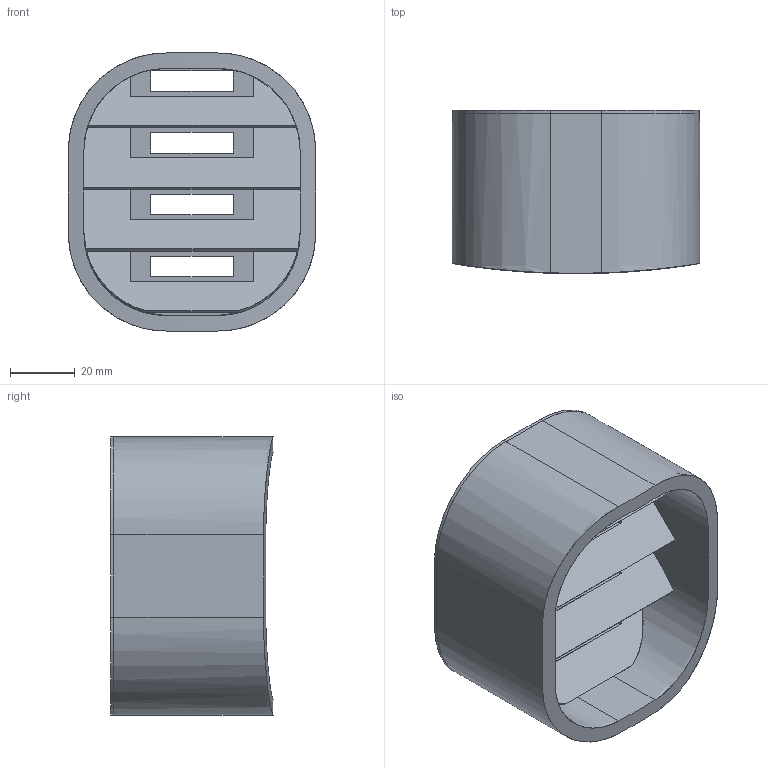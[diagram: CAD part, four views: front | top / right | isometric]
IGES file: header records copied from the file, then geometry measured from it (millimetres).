
Start section: 3D InterOp IGES (Version 21 0 3), Spatial Corp. Copyright (c) 1999-2007.
Global section: file name: CSR Center Vent Assy Top - 20140502.igs; native system: Spatial Corp.; preprocessor: 3D InterOp GENERIC/IGES 3.0; author: Noname; organization: Noname; date: 20140502.161251; units: inch
Bounding box: 76.2 x 50.23 x 85.72 mm (x, y, z)
Surface area: 60769.2 mm2 (no closed solid volume)
Topology: 0 solids, 0 shells, 308 faces, 1704 edges, 1704 vertices
Faces by surface type: extrusion 287, revolution 13, bspline 8
